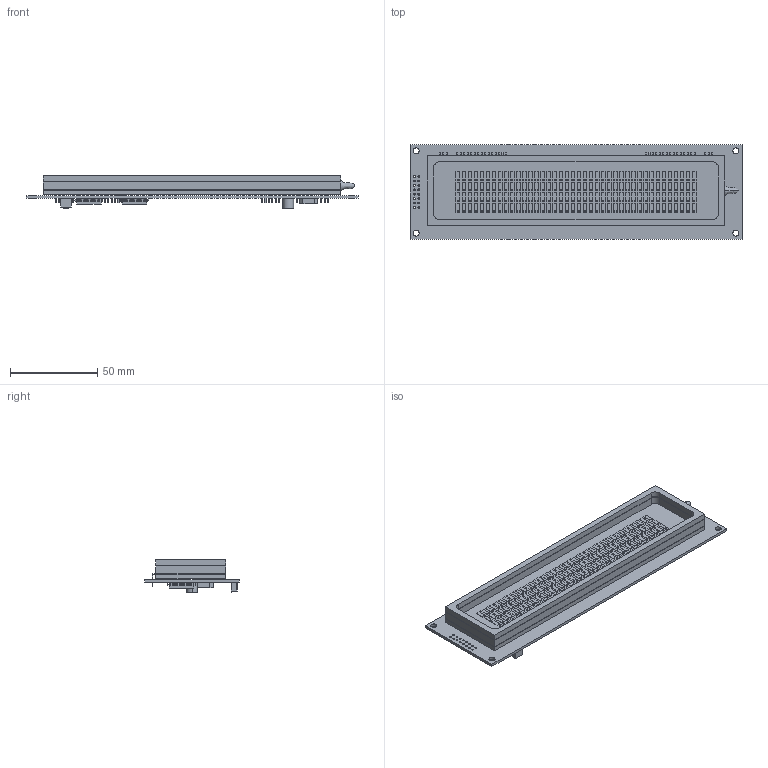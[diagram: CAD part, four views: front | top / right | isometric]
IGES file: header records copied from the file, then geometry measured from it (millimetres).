
Start section:  PTC IGES file: cu40045-uw1j.igs
Global section: file name: cu40045-uw1j.igs; native system: Pro/ENGINEER by Parametric Technology Corporation; preprocessor: 2010280; author: samx; organization: Unknown; date: 20140522.111633; units: millimetre
Bounding box: 190 x 54 x 18.77 mm (x, y, z)
Volume: 46791.7 mm3; surface area: 50399.5 mm2
Topology: 1 solids, 2 shells, 3068 faces, 8128 edges, 5390 vertices
Faces by surface type: bspline 2936, revolution 132
